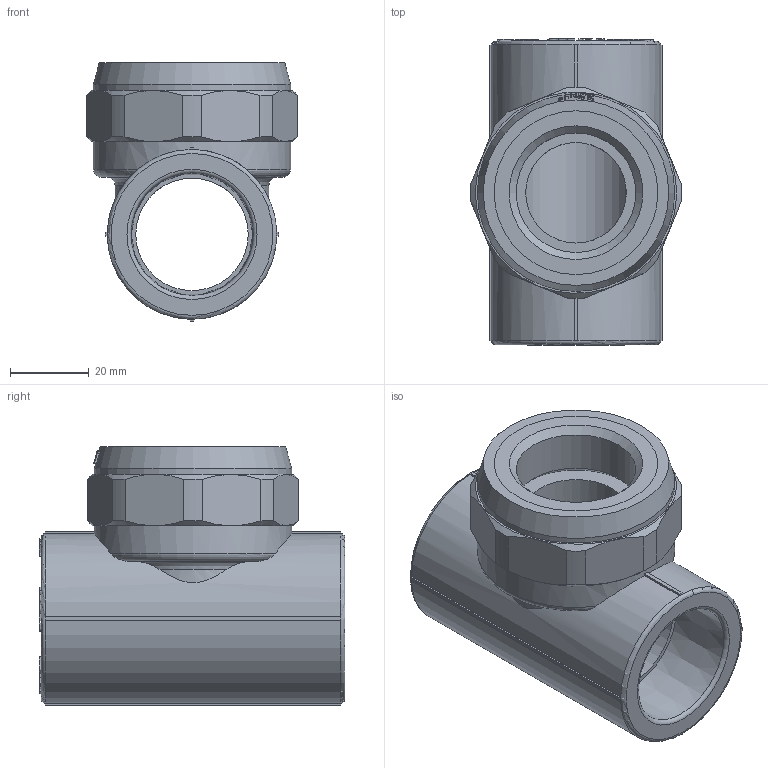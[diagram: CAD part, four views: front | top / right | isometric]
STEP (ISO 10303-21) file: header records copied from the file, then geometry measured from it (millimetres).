
FILE_DESCRIPTION(('STEP AP203'), '1');
FILE_NAME('ÂÐ.752241.040 - VTp.732.0.03206', '', ('UNSPECIFIED'), ('UNSPECIFIED'), 'C3D Converter', 'C3D Toolkit', '');
FILE_SCHEMA(('CONFIG_CONTROL_DESIGN'));
Length unit declared in the file: millimetre
Products named in the file (4): ВР.752241.040; ВР.302639.016.000; ВР.713661.003
Assembly tree (3 placements, depth 3):
  ВР.752241.040
    ВР.302639.016.000
      ВР.713661.003
      (unnamed)
Bounding box: 53.48 x 77.5 x 65.5 mm (x, y, z)
Volume: 91575.5 mm3; surface area: 37024.5 mm2
Topology: 3 solids, 3 shells, 847 faces, 2339 edges, 1551 vertices
Faces by surface type: extrusion 421, plane 355, cylinder 39, cone 19, torus 13
Full cylindrical faces by diameter (mm): 25.5 x1, 28.5 x1, 30.292 x1, 34 x2, 37.5 x8, 41.5 x10, 50 x2
Entity records: 31036 total; most frequent: CARTESIAN_POINT 11163, ORIENTED_EDGE 4562, DIRECTION 2787, EDGE_CURVE 2281, VECTOR 1581, VERTEX_POINT 1538, B_SPLINE_CURVE_WITH_KNOTS 1368, LINE 1160
